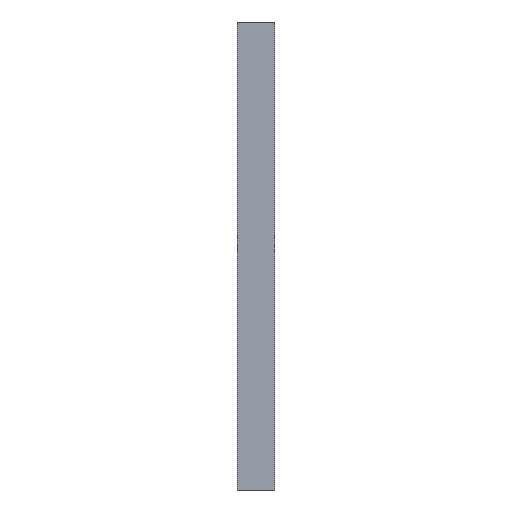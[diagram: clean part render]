
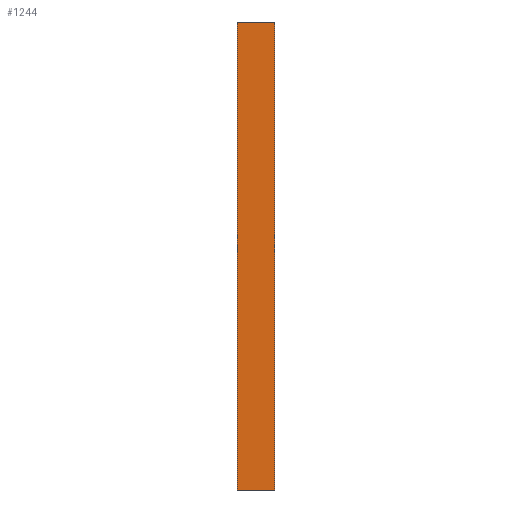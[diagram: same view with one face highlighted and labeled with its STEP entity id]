
A CAD part, left-side view. The second image highlights one B-rep face of the part: STEP entity #1244.
In plain terms, the highlighted planar face has unit normal (-1, 0, 0).
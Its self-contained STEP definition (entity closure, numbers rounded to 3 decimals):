
#112=PLANE('',#1419);
#167=FACE_OUTER_BOUND('',#223,.T.);
#223=EDGE_LOOP('',(#1018,#1019,#1020,#1021));
#377=LINE('',#2099,#441);
#378=LINE('',#2102,#442);
#379=LINE('',#2104,#443);
#380=LINE('',#2105,#444);
#441=VECTOR('',#1771,10.);
#442=VECTOR('',#1774,10.);
#443=VECTOR('',#1775,10.);
#444=VECTOR('',#1776,10.);
#648=VERTEX_POINT('',#2092);
#651=VERTEX_POINT('',#2097);
#652=VERTEX_POINT('',#2101);
#653=VERTEX_POINT('',#2103);
#807=EDGE_CURVE('',#648,#651,#377,.T.);
#808=EDGE_CURVE('',#652,#648,#378,.T.);
#809=EDGE_CURVE('',#653,#651,#379,.T.);
#810=EDGE_CURVE('',#652,#653,#380,.T.);
#1018=ORIENTED_EDGE('',*,*,#808,.T.);
#1019=ORIENTED_EDGE('',*,*,#807,.T.);
#1020=ORIENTED_EDGE('',*,*,#809,.F.);
#1021=ORIENTED_EDGE('',*,*,#810,.F.);
#1244=ADVANCED_FACE('',(#167),#112,.T.);
#1419=AXIS2_PLACEMENT_3D('',#2100,#1772,#1773);
#1771=DIRECTION('',(0.,1.,0.));
#1772=DIRECTION('center_axis',(-1.,0.,0.));
#1773=DIRECTION('ref_axis',(0.,0.,1.));
#1774=DIRECTION('',(0.,0.,1.));
#1775=DIRECTION('',(0.,0.,1.));
#1776=DIRECTION('',(0.,1.,0.));
#2092=CARTESIAN_POINT('',(-260.,0.,0.));
#2097=CARTESIAN_POINT('',(-260.,10.,0.));
#2099=CARTESIAN_POINT('',(-260.,0.,0.));
#2100=CARTESIAN_POINT('Origin',(-260.,0.,-125.));
#2101=CARTESIAN_POINT('',(-260.,0.,-125.));
#2102=CARTESIAN_POINT('',(-260.,0.,-125.));
#2103=CARTESIAN_POINT('',(-260.,10.,-125.));
#2104=CARTESIAN_POINT('',(-260.,10.,-125.));
#2105=CARTESIAN_POINT('',(-260.,0.,-125.));
